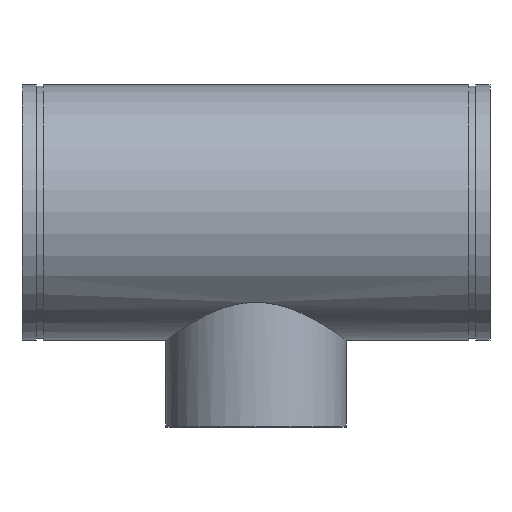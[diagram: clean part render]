
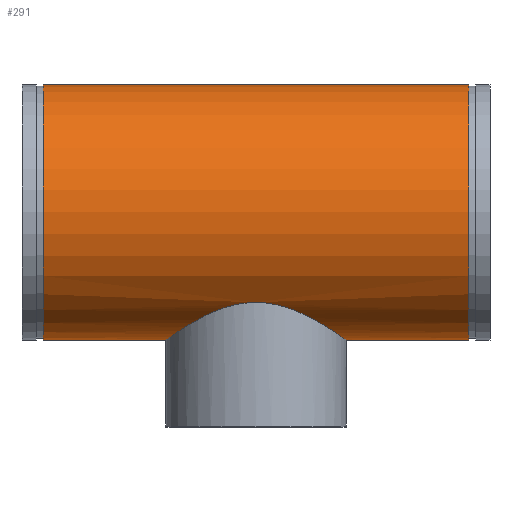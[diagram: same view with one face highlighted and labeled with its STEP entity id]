
A CAD part, top view. The second image highlights one B-rep face of the part: STEP entity #291.
In plain terms, the highlighted cylindrical face has radius 228.6 mm (diameter 457.2 mm), a full revolution.
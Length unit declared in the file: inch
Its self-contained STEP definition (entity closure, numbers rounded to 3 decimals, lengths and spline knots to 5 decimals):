
#45=B_SPLINE_CURVE_WITH_KNOTS('',3,(#511,#512,#513,#514,#515,#516,#517,
#518,#519,#520,#521,#522,#523,#524,#525,#526,#527,#528,#529,#530,#531,#532,
#533,#534,#535,#536,#537,#538,#539,#540,#541,#542,#543,#544,#545,#546,#547,
#548,#549,#550,#551,#552,#553,#554,#555,#556,#557,#558,#559,#560,#561,#562,
#563,#564,#565,#566,#567,#568,#569,#570,#571,#572),.UNSPECIFIED.,.F.,.F.,
(4,2,2,2,2,2,2,2,2,2,2,2,2,2,2,2,2,2,2,2,2,2,2,2,2,2,2,2,2,2,4),(0.,1.61222,
3.22444,6.44889,9.67333,12.89778,16.07312,
19.24847,22.42381,24.01149,25.59916,27.18683,
28.7745,31.94985,35.12519,38.30054,41.52498,
44.74943,47.97387,49.58609,51.19832,52.81054,
54.42276,57.6472,60.87165,64.09609,67.27144,
70.44678,73.62213,75.2098,76.79747),
 .UNSPECIFIED.);
#46=B_SPLINE_CURVE_WITH_KNOTS('',3,(#573,#574,#575,#576,#577,#578,#579,
#580,#581,#582,#583,#584,#585,#586,#587,#588,#589,#590,#591,#592,#593,#594),
 .UNSPECIFIED.,.F.,.F.,(4,2,2,2,2,2,2,2,2,2,4),(76.79747,78.38515,
79.97282,83.14816,86.32351,89.49886,92.7233,
95.94774,99.17219,100.78441,102.39663),
 .UNSPECIFIED.);
#51=LINE('',#508,#59);
#59=VECTOR('',#410,9.);
#67=CYLINDRICAL_SURFACE('',#338,9.);
#77=FACE_BOUND('',#108,.T.);
#88=FACE_OUTER_BOUND('',#107,.T.);
#107=EDGE_LOOP('',(#221,#222,#223,#224));
#108=EDGE_LOOP('',(#225,#226));
#121=CIRCLE('',#321,9.);
#132=CIRCLE('',#337,9.);
#141=VERTEX_POINT('',#476);
#152=VERTEX_POINT('',#505);
#153=VERTEX_POINT('',#509);
#154=VERTEX_POINT('',#510);
#165=EDGE_CURVE('',#141,#141,#121,.T.);
#178=EDGE_CURVE('',#152,#152,#132,.T.);
#179=EDGE_CURVE('',#152,#141,#51,.T.);
#180=EDGE_CURVE('',#153,#154,#45,.T.);
#181=EDGE_CURVE('',#154,#153,#46,.T.);
#221=ORIENTED_EDGE('',*,*,#178,.T.);
#222=ORIENTED_EDGE('',*,*,#179,.T.);
#223=ORIENTED_EDGE('',*,*,#165,.T.);
#224=ORIENTED_EDGE('',*,*,#179,.F.);
#225=ORIENTED_EDGE('',*,*,#180,.F.);
#226=ORIENTED_EDGE('',*,*,#181,.F.);
#291=ADVANCED_FACE('',(#88,#77),#67,.T.);
#321=AXIS2_PLACEMENT_3D('',#477,#372,#373);
#337=AXIS2_PLACEMENT_3D('',#506,#406,#407);
#338=AXIS2_PLACEMENT_3D('',#507,#408,#409);
#372=DIRECTION('center_axis',(-1.,0.,0.));
#373=DIRECTION('ref_axis',(0.,-1.,0.));
#406=DIRECTION('center_axis',(1.,0.,0.));
#407=DIRECTION('ref_axis',(0.,-1.,0.));
#408=DIRECTION('center_axis',(-1.,0.,0.));
#409=DIRECTION('ref_axis',(0.,-1.,0.));
#410=DIRECTION('',(1.,0.,0.));
#476=CARTESIAN_POINT('',(15.,9.,0.));
#477=CARTESIAN_POINT('Origin',(15.,0.,0.));
#505=CARTESIAN_POINT('',(-15.,9.,0.));
#506=CARTESIAN_POINT('Origin',(-15.,0.,0.));
#507=CARTESIAN_POINT('Origin',(16.5,0.,0.));
#508=CARTESIAN_POINT('',(16.5,9.,0.));
#509=CARTESIAN_POINT('',(0.,-6.3529,-6.375));
#510=CARTESIAN_POINT('',(-6.375,-9.,0.));
#511=CARTESIAN_POINT('Ctrl Pts',(0.,-6.3529,
-6.375));
#512=CARTESIAN_POINT('Ctrl Pts',(0.21158,-6.3529,-6.375));
#513=CARTESIAN_POINT('Ctrl Pts',(0.4243,-6.36356,-6.36443));
#514=CARTESIAN_POINT('Ctrl Pts',(0.84839,-6.40583,-6.32189));
#515=CARTESIAN_POINT('Ctrl Pts',(1.05975,-6.43743,-6.28991));
#516=CARTESIAN_POINT('Ctrl Pts',(1.68671,-6.56021,-6.16259));
#517=CARTESIAN_POINT('Ctrl Pts',(2.09518,-6.67972,-6.03558));
#518=CARTESIAN_POINT('Ctrl Pts',(2.87099,-6.96214,-5.70749));
#519=CARTESIAN_POINT('Ctrl Pts',(3.23913,-7.12486,-5.50613));
#520=CARTESIAN_POINT('Ctrl Pts',(3.91908,-7.45861,-5.04482));
#521=CARTESIAN_POINT('Ctrl Pts',(4.23088,-7.62946,-4.78473));
#522=CARTESIAN_POINT('Ctrl Pts',(4.78052,-7.94753,-4.23509));
#523=CARTESIAN_POINT('Ctrl Pts',(5.03976,-8.10721,-3.92563));
#524=CARTESIAN_POINT('Ctrl Pts',(5.50236,-8.4026,-3.24558));
#525=CARTESIAN_POINT('Ctrl Pts',(5.70574,-8.53816,-2.87494));
#526=CARTESIAN_POINT('Ctrl Pts',(6.03654,-8.76267,-2.09309));
#527=CARTESIAN_POINT('Ctrl Pts',(6.16422,-8.85174,-1.68103));
#528=CARTESIAN_POINT('Ctrl Pts',(6.29117,-8.94076,-1.05239));
#529=CARTESIAN_POINT('Ctrl Pts',(6.32283,-8.96311,-0.84111));
#530=CARTESIAN_POINT('Ctrl Pts',(6.36474,-8.99273,-0.41909));
#531=CARTESIAN_POINT('Ctrl Pts',(6.375,-9.,-0.20836));
#532=CARTESIAN_POINT('Ctrl Pts',(6.375,-9.,0.20836));
#533=CARTESIAN_POINT('Ctrl Pts',(6.36474,-8.99273,0.41909));
#534=CARTESIAN_POINT('Ctrl Pts',(6.32283,-8.96311,0.84111));
#535=CARTESIAN_POINT('Ctrl Pts',(6.29117,-8.94076,1.05239));
#536=CARTESIAN_POINT('Ctrl Pts',(6.16422,-8.85174,1.68103));
#537=CARTESIAN_POINT('Ctrl Pts',(6.03654,-8.76267,2.09309));
#538=CARTESIAN_POINT('Ctrl Pts',(5.70574,-8.53816,2.87494));
#539=CARTESIAN_POINT('Ctrl Pts',(5.50236,-8.4026,3.24558));
#540=CARTESIAN_POINT('Ctrl Pts',(5.03976,-8.10721,3.92563));
#541=CARTESIAN_POINT('Ctrl Pts',(4.78052,-7.94753,4.23509));
#542=CARTESIAN_POINT('Ctrl Pts',(4.23088,-7.62946,4.78473));
#543=CARTESIAN_POINT('Ctrl Pts',(3.91908,-7.45861,5.04482));
#544=CARTESIAN_POINT('Ctrl Pts',(3.23913,-7.12486,5.50613));
#545=CARTESIAN_POINT('Ctrl Pts',(2.87099,-6.96214,5.70749));
#546=CARTESIAN_POINT('Ctrl Pts',(2.09518,-6.67972,6.03558));
#547=CARTESIAN_POINT('Ctrl Pts',(1.68671,-6.56021,6.16259));
#548=CARTESIAN_POINT('Ctrl Pts',(1.05975,-6.43743,6.28991));
#549=CARTESIAN_POINT('Ctrl Pts',(0.84839,-6.40583,6.32189));
#550=CARTESIAN_POINT('Ctrl Pts',(0.4243,-6.36356,6.36443));
#551=CARTESIAN_POINT('Ctrl Pts',(0.21158,-6.3529,6.375));
#552=CARTESIAN_POINT('Ctrl Pts',(-0.21158,-6.3529,6.375));
#553=CARTESIAN_POINT('Ctrl Pts',(-0.4243,-6.36356,6.36443));
#554=CARTESIAN_POINT('Ctrl Pts',(-0.84839,-6.40583,6.32189));
#555=CARTESIAN_POINT('Ctrl Pts',(-1.05975,-6.43743,6.28991));
#556=CARTESIAN_POINT('Ctrl Pts',(-1.68671,-6.56021,6.16259));
#557=CARTESIAN_POINT('Ctrl Pts',(-2.09518,-6.67972,6.03558));
#558=CARTESIAN_POINT('Ctrl Pts',(-2.87099,-6.96214,5.70749));
#559=CARTESIAN_POINT('Ctrl Pts',(-3.23913,-7.12486,5.50613));
#560=CARTESIAN_POINT('Ctrl Pts',(-3.91908,-7.45861,5.04482));
#561=CARTESIAN_POINT('Ctrl Pts',(-4.23088,-7.62946,4.78473));
#562=CARTESIAN_POINT('Ctrl Pts',(-4.78052,-7.94753,4.23509));
#563=CARTESIAN_POINT('Ctrl Pts',(-5.03976,-8.10721,3.92563));
#564=CARTESIAN_POINT('Ctrl Pts',(-5.50236,-8.4026,3.24558));
#565=CARTESIAN_POINT('Ctrl Pts',(-5.70574,-8.53816,2.87494));
#566=CARTESIAN_POINT('Ctrl Pts',(-6.03654,-8.76267,2.09309));
#567=CARTESIAN_POINT('Ctrl Pts',(-6.16422,-8.85174,1.68103));
#568=CARTESIAN_POINT('Ctrl Pts',(-6.29117,-8.94076,1.05239));
#569=CARTESIAN_POINT('Ctrl Pts',(-6.32283,-8.96311,0.84111));
#570=CARTESIAN_POINT('Ctrl Pts',(-6.36474,-8.99273,0.41909));
#571=CARTESIAN_POINT('Ctrl Pts',(-6.375,-9.,0.20836));
#572=CARTESIAN_POINT('Ctrl Pts',(-6.375,-9.,0.));
#573=CARTESIAN_POINT('Ctrl Pts',(-6.375,-9.,0.));
#574=CARTESIAN_POINT('Ctrl Pts',(-6.375,-9.,-0.20836));
#575=CARTESIAN_POINT('Ctrl Pts',(-6.36474,-8.99273,-0.41909));
#576=CARTESIAN_POINT('Ctrl Pts',(-6.32283,-8.96311,-0.84111));
#577=CARTESIAN_POINT('Ctrl Pts',(-6.29117,-8.94076,-1.05239));
#578=CARTESIAN_POINT('Ctrl Pts',(-6.16422,-8.85174,-1.68103));
#579=CARTESIAN_POINT('Ctrl Pts',(-6.03654,-8.76267,-2.09309));
#580=CARTESIAN_POINT('Ctrl Pts',(-5.70574,-8.53816,-2.87494));
#581=CARTESIAN_POINT('Ctrl Pts',(-5.50236,-8.4026,-3.24558));
#582=CARTESIAN_POINT('Ctrl Pts',(-5.03976,-8.10721,-3.92563));
#583=CARTESIAN_POINT('Ctrl Pts',(-4.78052,-7.94753,-4.23509));
#584=CARTESIAN_POINT('Ctrl Pts',(-4.23088,-7.62946,-4.78473));
#585=CARTESIAN_POINT('Ctrl Pts',(-3.91908,-7.45861,-5.04482));
#586=CARTESIAN_POINT('Ctrl Pts',(-3.23913,-7.12486,-5.50613));
#587=CARTESIAN_POINT('Ctrl Pts',(-2.87099,-6.96214,-5.70749));
#588=CARTESIAN_POINT('Ctrl Pts',(-2.09518,-6.67972,-6.03558));
#589=CARTESIAN_POINT('Ctrl Pts',(-1.68671,-6.56021,-6.16259));
#590=CARTESIAN_POINT('Ctrl Pts',(-1.05975,-6.43743,-6.28991));
#591=CARTESIAN_POINT('Ctrl Pts',(-0.84839,-6.40583,-6.32189));
#592=CARTESIAN_POINT('Ctrl Pts',(-0.4243,-6.36356,-6.36443));
#593=CARTESIAN_POINT('Ctrl Pts',(-0.21158,-6.3529,-6.375));
#594=CARTESIAN_POINT('Ctrl Pts',(0.,-6.3529,-6.375));
